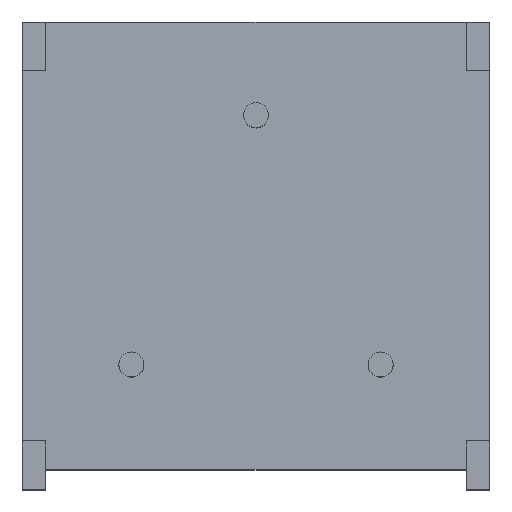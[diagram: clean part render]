
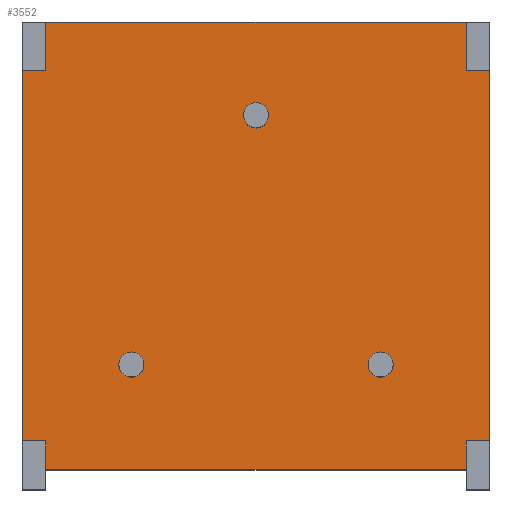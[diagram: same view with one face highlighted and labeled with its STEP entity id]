
A CAD part, top view. The second image highlights one B-rep face of the part: STEP entity #3552.
In plain terms, the highlighted planar face has unit normal (0, 0, 1).
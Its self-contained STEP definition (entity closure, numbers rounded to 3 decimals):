
#410=LINE('',#7231,#760);
#413=LINE('',#7237,#763);
#416=LINE('',#7242,#766);
#418=LINE('',#7246,#768);
#420=LINE('',#7250,#770);
#423=LINE('',#7255,#773);
#425=LINE('',#7259,#775);
#427=LINE('',#7263,#777);
#429=LINE('',#7267,#779);
#431=LINE('',#7271,#781);
#432=LINE('',#7273,#782);
#434=LINE('',#7277,#784);
#760=VECTOR('',#4781,1000.);
#763=VECTOR('',#4786,1000.);
#766=VECTOR('',#4791,1000.);
#768=VECTOR('',#4795,1000.);
#770=VECTOR('',#4799,1000.);
#773=VECTOR('',#4804,1000.);
#775=VECTOR('',#4808,1000.);
#777=VECTOR('',#4812,1000.);
#779=VECTOR('',#4816,1000.);
#781=VECTOR('',#4820,1000.);
#782=VECTOR('',#4823,1000.);
#784=VECTOR('',#4827,1000.);
#1844=ORIENTED_EDGE('',*,*,#1866,.F.);
#1845=ORIENTED_EDGE('',*,*,#1867,.F.);
#1846=ORIENTED_EDGE('',*,*,#1872,.F.);
#1847=ORIENTED_EDGE('',*,*,#1873,.F.);
#1848=ORIENTED_EDGE('',*,*,#1878,.F.);
#1849=ORIENTED_EDGE('',*,*,#1879,.F.);
#1850=ORIENTED_EDGE('',*,*,#2372,.T.);
#1851=ORIENTED_EDGE('',*,*,#2371,.F.);
#1852=ORIENTED_EDGE('',*,*,#2369,.T.);
#1853=ORIENTED_EDGE('',*,*,#2367,.T.);
#1854=ORIENTED_EDGE('',*,*,#2365,.F.);
#1855=ORIENTED_EDGE('',*,*,#2363,.F.);
#1856=ORIENTED_EDGE('',*,*,#2360,.T.);
#1857=ORIENTED_EDGE('',*,*,#2358,.F.);
#1858=ORIENTED_EDGE('',*,*,#2356,.T.);
#1859=ORIENTED_EDGE('',*,*,#2353,.T.);
#1860=ORIENTED_EDGE('',*,*,#2350,.F.);
#1861=ORIENTED_EDGE('',*,*,#2374,.T.);
#1866=EDGE_CURVE('',#2378,#2377,#2714,.T.);
#1867=EDGE_CURVE('',#2377,#2378,#2715,.T.);
#1872=EDGE_CURVE('',#2382,#2381,#2718,.T.);
#1873=EDGE_CURVE('',#2381,#2382,#2719,.T.);
#1878=EDGE_CURVE('',#2386,#2385,#2722,.T.);
#1879=EDGE_CURVE('',#2385,#2386,#2723,.T.);
#2350=EDGE_CURVE('',#2700,#2701,#410,.T.);
#2353=EDGE_CURVE('',#2702,#2701,#413,.T.);
#2356=EDGE_CURVE('',#2703,#2702,#416,.T.);
#2358=EDGE_CURVE('',#2703,#2704,#418,.T.);
#2360=EDGE_CURVE('',#2705,#2704,#420,.T.);
#2363=EDGE_CURVE('',#2705,#2706,#423,.T.);
#2365=EDGE_CURVE('',#2706,#2707,#425,.T.);
#2367=EDGE_CURVE('',#2708,#2707,#427,.T.);
#2369=EDGE_CURVE('',#2709,#2708,#429,.T.);
#2371=EDGE_CURVE('',#2709,#2710,#431,.T.);
#2372=EDGE_CURVE('',#2711,#2710,#432,.T.);
#2374=EDGE_CURVE('',#2700,#2711,#434,.T.);
#2377=VERTEX_POINT('',#4838);
#2378=VERTEX_POINT('',#4840);
#2381=VERTEX_POINT('',#4851);
#2382=VERTEX_POINT('',#4853);
#2385=VERTEX_POINT('',#4864);
#2386=VERTEX_POINT('',#4866);
#2700=VERTEX_POINT('',#7230);
#2701=VERTEX_POINT('',#7232);
#2702=VERTEX_POINT('',#7236);
#2703=VERTEX_POINT('',#7240);
#2704=VERTEX_POINT('',#7245);
#2705=VERTEX_POINT('',#7249);
#2706=VERTEX_POINT('',#7253);
#2707=VERTEX_POINT('',#7258);
#2708=VERTEX_POINT('',#7262);
#2709=VERTEX_POINT('',#7266);
#2710=VERTEX_POINT('',#7270);
#2711=VERTEX_POINT('',#7274);
#2714=CIRCLE('',#3570,0.254);
#2715=CIRCLE('',#3572,0.254);
#2718=CIRCLE('',#3577,0.254);
#2719=CIRCLE('',#3579,0.254);
#2722=CIRCLE('',#3584,0.254);
#2723=CIRCLE('',#3586,0.254);
#3031=EDGE_LOOP('',(#1844,#1845));
#3032=EDGE_LOOP('',(#1846,#1847));
#3033=EDGE_LOOP('',(#1848,#1849));
#3034=EDGE_LOOP('',(#1850,#1851,#1852,#1853,#1854,#1855,#1856,#1857,#1858,
#1859,#1860,#1861));
#3237=FACE_BOUND('',#3031,.T.);
#3238=FACE_BOUND('',#3032,.T.);
#3239=FACE_BOUND('',#3033,.T.);
#3240=FACE_BOUND('',#3034,.T.);
#3361=PLANE('',#3869);
#3552=ADVANCED_FACE('',(#3237,#3238,#3239,#3240),#3361,.F.);
#3570=AXIS2_PLACEMENT_3D('',#4841,#3882,#3883);
#3572=AXIS2_PLACEMENT_3D('',#4843,#3886,#3887);
#3577=AXIS2_PLACEMENT_3D('',#4854,#3898,#3899);
#3579=AXIS2_PLACEMENT_3D('',#4856,#3902,#3903);
#3584=AXIS2_PLACEMENT_3D('',#4867,#3914,#3915);
#3586=AXIS2_PLACEMENT_3D('',#4869,#3918,#3919);
#3869=AXIS2_PLACEMENT_3D('',#7278,#4828,#4829);
#3882=DIRECTION('',(0.,0.,1.));
#3883=DIRECTION('',(0.,-1.,0.));
#3886=DIRECTION('',(0.,0.,1.));
#3887=DIRECTION('',(0.,1.,0.));
#3898=DIRECTION('',(0.,0.,1.));
#3899=DIRECTION('',(0.,-1.,0.));
#3902=DIRECTION('',(0.,0.,1.));
#3903=DIRECTION('',(0.,1.,0.));
#3914=DIRECTION('',(0.,0.,1.));
#3915=DIRECTION('',(0.,-1.,0.));
#3918=DIRECTION('',(0.,0.,1.));
#3919=DIRECTION('',(0.,1.,0.));
#4781=DIRECTION('',(0.,1.,0.));
#4786=DIRECTION('',(1.,0.,0.));
#4791=DIRECTION('',(0.,-1.,0.));
#4795=DIRECTION('',(1.,0.,0.));
#4799=DIRECTION('',(0.,-1.,0.));
#4804=DIRECTION('',(1.,0.,0.));
#4808=DIRECTION('',(0.,-1.,0.));
#4812=DIRECTION('',(-1.,0.,0.));
#4816=DIRECTION('',(0.,1.,0.));
#4820=DIRECTION('',(-1.,0.,0.));
#4823=DIRECTION('',(0.,1.,0.));
#4827=DIRECTION('',(1.,0.,0.));
#4828=DIRECTION('',(0.,0.,-1.));
#4829=DIRECTION('',(0.,-1.,0.));
#4838=CARTESIAN_POINT('',(0.,3.048,0.));
#4840=CARTESIAN_POINT('',(0.,2.54,0.));
#4841=CARTESIAN_POINT('',(0.,2.794,0.));
#4843=CARTESIAN_POINT('',(0.,2.794,0.));
#4851=CARTESIAN_POINT('',(-2.54,-2.032,0.));
#4853=CARTESIAN_POINT('',(-2.54,-2.54,0.));
#4854=CARTESIAN_POINT('',(-2.54,-2.286,0.));
#4856=CARTESIAN_POINT('',(-2.54,-2.286,0.));
#4864=CARTESIAN_POINT('',(2.54,-2.032,0.));
#4866=CARTESIAN_POINT('',(2.54,-2.54,0.));
#4867=CARTESIAN_POINT('',(2.54,-2.286,0.));
#4869=CARTESIAN_POINT('',(2.54,-2.286,0.));
#7230=CARTESIAN_POINT('',(-4.28,-4.42,0.));
#7231=CARTESIAN_POINT('',(-4.28,-4.42,0.));
#7232=CARTESIAN_POINT('',(-4.28,-3.835,0.));
#7236=CARTESIAN_POINT('',(-4.763,-3.835,0.));
#7237=CARTESIAN_POINT('',(-4.763,-3.835,0.));
#7240=CARTESIAN_POINT('',(-4.763,3.708,0.));
#7242=CARTESIAN_POINT('',(-4.763,3.708,0.));
#7245=CARTESIAN_POINT('',(-4.28,3.708,0.));
#7246=CARTESIAN_POINT('',(-4.763,3.708,0.));
#7249=CARTESIAN_POINT('',(-4.28,4.699,0.));
#7250=CARTESIAN_POINT('',(-4.28,4.699,0.));
#7253=CARTESIAN_POINT('',(4.28,4.699,0.));
#7255=CARTESIAN_POINT('',(-4.28,4.699,0.));
#7258=CARTESIAN_POINT('',(4.28,3.708,0.));
#7259=CARTESIAN_POINT('',(4.28,4.699,0.));
#7262=CARTESIAN_POINT('',(4.763,3.708,0.));
#7263=CARTESIAN_POINT('',(4.763,3.708,0.));
#7266=CARTESIAN_POINT('',(4.763,-3.835,0.));
#7267=CARTESIAN_POINT('',(4.763,-3.835,0.));
#7270=CARTESIAN_POINT('',(4.28,-3.835,0.));
#7271=CARTESIAN_POINT('',(4.763,-3.835,0.));
#7273=CARTESIAN_POINT('',(4.28,-4.42,0.));
#7274=CARTESIAN_POINT('',(4.28,-4.42,0.));
#7277=CARTESIAN_POINT('',(-4.28,-4.42,0.));
#7278=CARTESIAN_POINT('',(0.,0.,0.));
